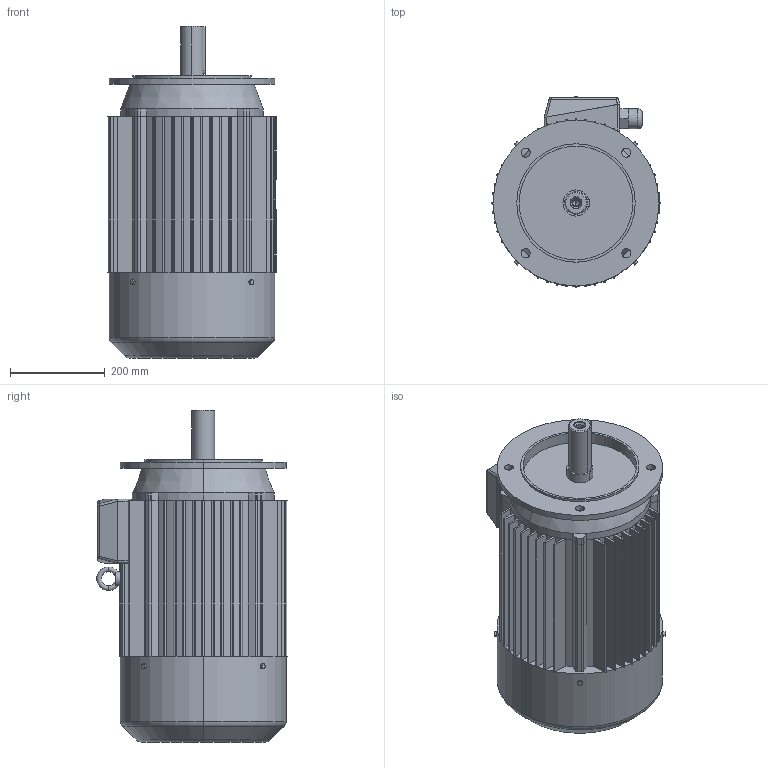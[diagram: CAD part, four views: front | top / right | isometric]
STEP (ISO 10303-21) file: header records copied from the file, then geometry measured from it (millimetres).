
FILE_DESCRIPTION (( 'STEP AP203' ), '1' );
FILE_NAME ('SKg 180M,L-B5.STEP', '2010-02-09T12:47:21', ( 'INDUKTA' ), ( 'CANTONI MOTOR' ), 'SwSTEP 2.0', 'SolidWorks 2003064', '' );
FILE_SCHEMA (( 'CONFIG_CONTROL_DESIGN' ));
Length unit declared in the file: millimetre
Products named in the file (1): SKg 180M,L-B5
Bounding box: 354.99 x 402.49 x 701 mm (x, y, z)
Volume: 48636436.7 mm3; surface area: 1973001.5 mm2
Topology: 12 solids, 12 shells, 501 faces, 1331 edges, 861 vertices
Faces by surface type: plane 244, cylinder 181, bspline 42, torus 16, cone 14, sphere 4
Entity records: 18694 total; most frequent: CARTESIAN_POINT 6185, ORIENTED_EDGE 2650, DIRECTION 2532, EDGE_CURVE 1325, VERTEX_POINT 861, AXIS2_PLACEMENT_3D 856, LINE 820, VECTOR 820
